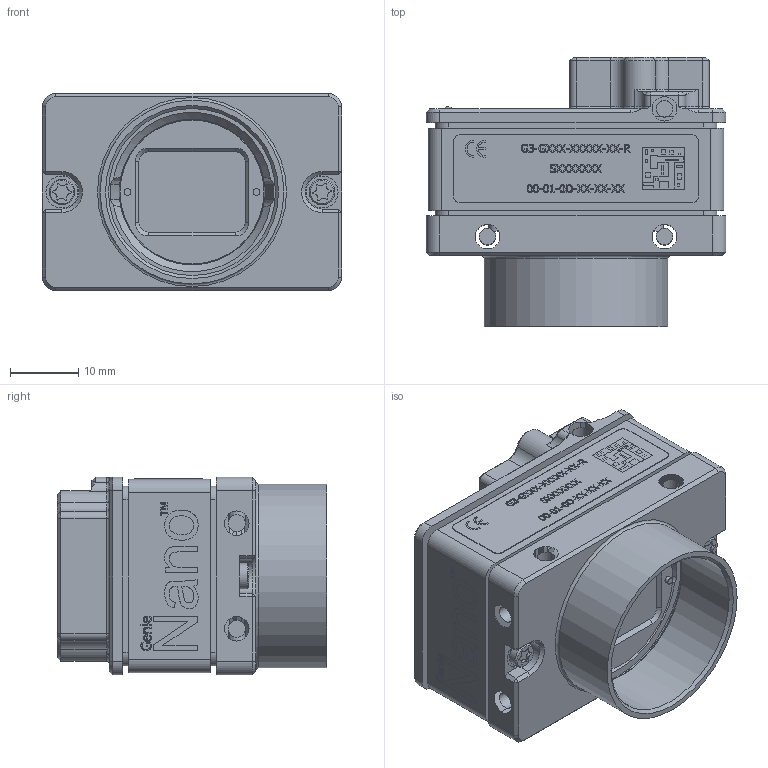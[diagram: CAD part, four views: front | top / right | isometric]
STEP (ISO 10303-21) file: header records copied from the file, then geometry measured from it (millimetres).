
FILE_DESCRIPTION(/* description */ (''),/* implementation_level */ '2;1');
FILE_NAME(/* name */ 'C:\Users\sduhra\Desktop\cad MODELS\NOVA CAMERA ASSEMBLY-SIZE 3 (C-MOUNT) IMX25x.stp',/* time_stamp */ '2018-07-09T16:11:30-04:00',/* author */ ('sduhra'),/* organization */ (''),/* preprocessor_version */ 'ST-DEVELOPER v17',/* originating_system */ 'Autodesk Inventor 2018',/* authorisation */ '');
FILE_SCHEMA (('AUTOMOTIVE_DESIGN { 1 0 10303 214 3 1 1 }'));
Products named in the file (1): NOVA CAMERA ASSEMBLY-IMX25
Bounding box: 44 x 39.55 x 29 mm (x, y, z)
Volume: 26755.4 mm3; surface area: 14097.9 mm2
Topology: 2 solids, 2 shells, 2312 faces, 6249 edges, 4047 vertices
Faces by surface type: plane 1458, cylinder 414, bspline 304, cone 90, torus 38, sphere 8
Full cylindrical faces by diameter (mm): 1.2 x2, 1.567 x4, 1.7 x1, 2.459 x9, 3.8 x2, 4.7 x2, 24.536 x1, 25.654 x1, 27 x1
Entity records: 79623 total; most frequent: CARTESIAN_POINT 20862, ORIENTED_EDGE 12500, DIRECTION 10534, EDGE_CURVE 6250, LINE 4438, VECTOR 4438, VERTEX_POINT 4055, AXIS2_PLACEMENT_3D 3048
